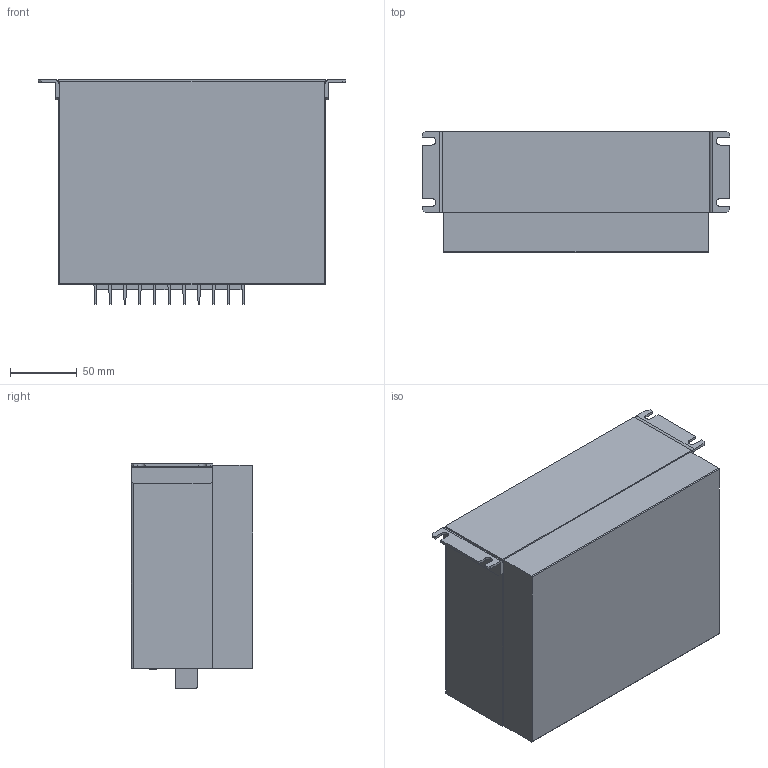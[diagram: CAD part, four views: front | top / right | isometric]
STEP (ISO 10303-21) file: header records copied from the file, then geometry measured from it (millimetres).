
FILE_DESCRIPTION (( 'STEP AP214' ), '1' );
FILE_NAME ('EP100-3A綠遴.STEP', '2015-09-29T06:03:26', ( '湮華炵苀' ), ( 'www.dadighost.com' ), 'SwSTEP 2.0', 'SolidWorks 2013', '' );
FILE_SCHEMA (( 'AUTOMOTIVE_DESIGN' ));
Length unit declared in the file: millimetre
Products named in the file (1): EP100-3A綠遴
Bounding box: 230 x 91 x 168.02 mm (x, y, z)
Volume: 2782769.1 mm3; surface area: 139267.8 mm2
Topology: 1 solids, 1 shells, 280 faces, 759 edges, 492 vertices
Faces by surface type: plane 219, cylinder 52, bspline 9
Entity records: 8840 total; most frequent: CARTESIAN_POINT 1858, ORIENTED_EDGE 1518, DIRECTION 1312, EDGE_CURVE 759, LINE 644, VECTOR 644, VERTEX_POINT 492, AXIS2_PLACEMENT_3D 334
